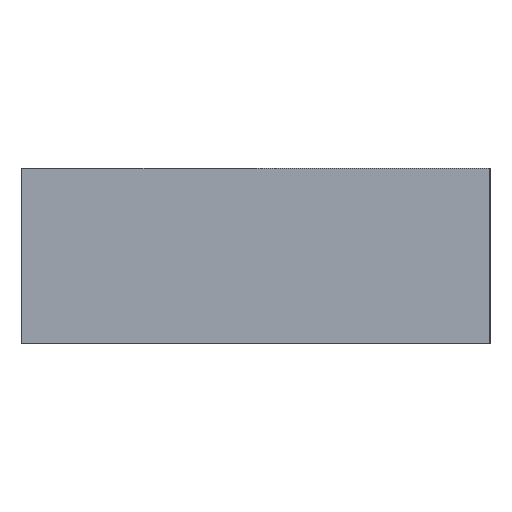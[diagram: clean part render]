
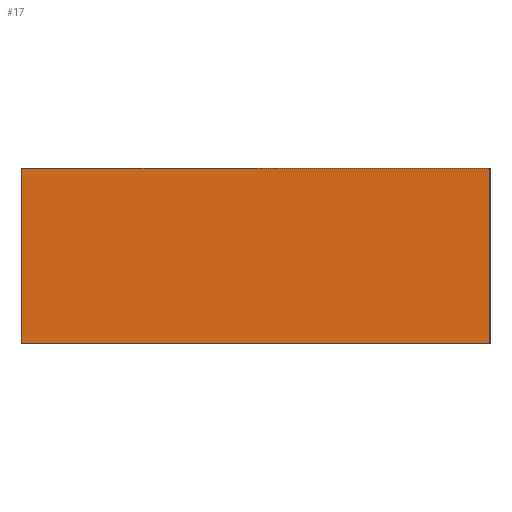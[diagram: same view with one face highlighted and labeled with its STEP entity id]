
A CAD part, left-side view. The second image highlights one B-rep face of the part: STEP entity #17.
In plain terms, the highlighted planar face has unit normal (-1, 0, 0).
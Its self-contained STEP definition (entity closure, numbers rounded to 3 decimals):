
#17 = ADVANCED_FACE('',(#18),#52,.F.);
#18 = FACE_BOUND('',#19,.F.);
#19 = EDGE_LOOP('',(#20,#30,#38,#46));
#20 = ORIENTED_EDGE('',*,*,#21,.F.);
#21 = EDGE_CURVE('',#22,#24,#26,.T.);
#22 = VERTEX_POINT('',#23);
#23 = CARTESIAN_POINT('',(0.,0.,0.));
#24 = VERTEX_POINT('',#25);
#25 = CARTESIAN_POINT('',(0.,0.,6.));
#26 = LINE('',#27,#28);
#27 = CARTESIAN_POINT('',(0.,0.,0.));
#28 = VECTOR('',#29,1.);
#29 = DIRECTION('',(0.,0.,1.));
#30 = ORIENTED_EDGE('',*,*,#31,.T.);
#31 = EDGE_CURVE('',#22,#32,#34,.T.);
#32 = VERTEX_POINT('',#33);
#33 = CARTESIAN_POINT('',(0.,16.,0.));
#34 = LINE('',#35,#36);
#35 = CARTESIAN_POINT('',(0.,0.,0.));
#36 = VECTOR('',#37,1.);
#37 = DIRECTION('',(-0.,1.,0.));
#38 = ORIENTED_EDGE('',*,*,#39,.T.);
#39 = EDGE_CURVE('',#32,#40,#42,.T.);
#40 = VERTEX_POINT('',#41);
#41 = CARTESIAN_POINT('',(0.,16.,6.));
#42 = LINE('',#43,#44);
#43 = CARTESIAN_POINT('',(0.,16.,0.));
#44 = VECTOR('',#45,1.);
#45 = DIRECTION('',(0.,0.,1.));
#46 = ORIENTED_EDGE('',*,*,#47,.F.);
#47 = EDGE_CURVE('',#24,#40,#48,.T.);
#48 = LINE('',#49,#50);
#49 = CARTESIAN_POINT('',(0.,0.,6.));
#50 = VECTOR('',#51,1.);
#51 = DIRECTION('',(-0.,1.,0.));
#52 = PLANE('',#53);
#53 = AXIS2_PLACEMENT_3D('',#54,#55,#56);
#54 = CARTESIAN_POINT('',(0.,0.,0.));
#55 = DIRECTION('',(1.,0.,-0.));
#56 = DIRECTION('',(0.,0.,1.));
